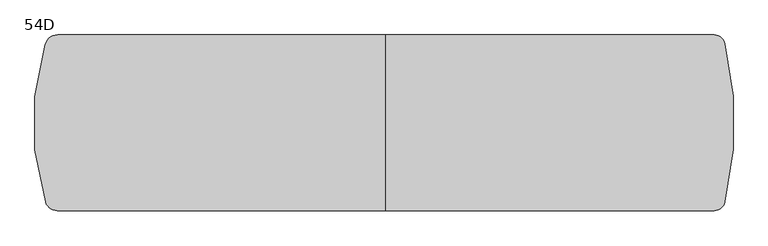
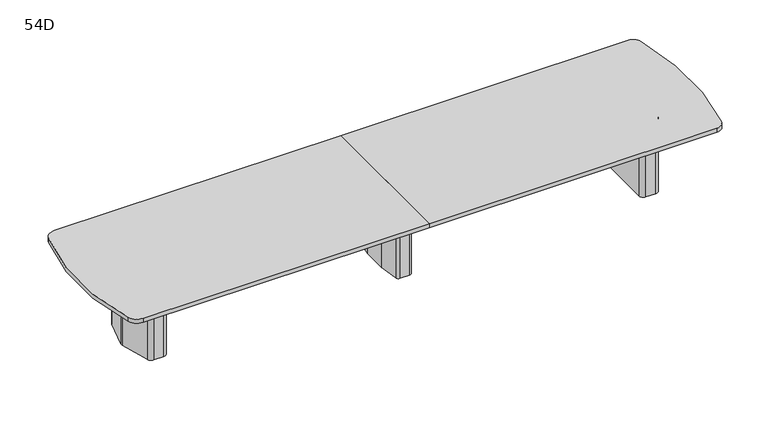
"""IFC4 building model written with IfcOpenShell, lengths in millimetres: furniture geometry, Coalesse_AM_Table_Conference_ETable2_SoftRadiused_18ft_ThreeBase : 54D."""

from ifc_helpers import new_model, si_unit, point, frame, frame_2d, origin, place, context, project, spatial, polyline, circle_curve, trimmed, segment, composite_curve, outline, extrude, source, transform, mapped, element, save
from ifc_brep_helpers import plane_surface, cylinder_surface, revolved_surface, advanced_brep


def furniture_54d_28616874(model_context):
    return source(origin(), model_context, "Body", "SolidModel", [
        advanced_brep(
        [(35.71875, 206.375, 3.175), (10.31875, 231.775, 3.175), (-10.31875, 231.775, 3.175), (-35.71875, 206.375, 3.175), (-35.71875, -206.375, 3.175), (-10.31875, -231.775, 3.175), (10.31875, -231.775, 3.175), (35.71875, -206.375, 3.175), (-61.11875, 206.375, 0.0), (-10.31875, 257.175, 0.0), (10.31875, 257.175, 0.0), (61.11875, 206.375, 0.0), (61.11875, -206.375, 0.0), (10.31875, -257.175, 0.0), (-10.31875, -257.175, 0.0), (-61.11875, -206.375, 0.0), (-61.11875, -206.375, 3.175), (-61.11875, 206.375, 3.175), (-10.31875, -257.175, 3.175), (10.31875, -257.175, 3.175), (61.11875, -206.375, 3.175), (61.11875, 206.375, 3.175), (10.31875, 257.175, 3.175), (-10.31875, 257.175, 3.175), (-92.6215974, 106.2976848, 698.5), (-92.86875, 102.7629613, 698.5), (-92.86875, -102.7629613, 698.5), (-92.6215974, -106.2976848, 698.5), (-67.7988375, -282.9347235, 698.5), (-42.6459902, -304.8, 698.5), (42.6459902, -304.8, 698.5), (67.7988375, -282.9347235, 698.5), (92.6215974, -106.2976848, 698.5), (92.86875, -102.7629613, 698.5), (92.86875, 102.7629613, 698.5), (92.6215974, 106.2976848, 698.5), (67.7988375, 282.9347235, 698.5), (42.6459902, 304.8, 698.5), (-42.6459902, 304.8, 698.5), (-67.7988375, 282.9347235, 698.5), (10.31875, 231.775, 698.5), (35.71875, 206.375, 698.5), (35.71875, -206.375, 698.5), (10.31875, -231.775, 698.5), (-10.31875, -231.775, 698.5), (-35.71875, -206.375, 698.5), (-35.71875, 206.375, 698.5), (-10.31875, 231.775, 698.5), (-92.6215974, 106.2976848, 3.175), (-67.7988375, 282.9347235, 3.175), (-42.6459902, 304.8, 3.175), (42.6459902, 304.8, 3.175), (67.7988375, 282.9347235, 3.175), (92.6215974, 106.2976848, 3.175), (92.86875, 102.7629613, 3.175), (92.86875, -102.7629613, 3.175), (92.6215974, -106.2976848, 3.175), (67.7988375, -282.9347235, 3.175), (42.6459902, -304.8, 3.175), (-42.6459902, -304.8, 3.175), (-67.7988375, -282.9347235, 3.175), (-92.6215974, -106.2976848, 3.175), (-92.86875, -102.7629613, 3.175), (-92.86875, 102.7629613, 3.175)],
        [
            (0, 1, circle_curve(frame((10.31875, 206.375, 3.175), z_axis=(0.0, 0.0, 1.0), x_axis=(1.0, 0.0, 0.0)), 25.4)),
            (1, 2),
            (2, 3, circle_curve(frame((-10.31875, 206.375, 3.175), z_axis=(0.0, 0.0, 1.0), x_axis=(1.0, 0.0, 0.0)), 25.4)),
            (3, 4),
            (4, 5, circle_curve(frame((-10.31875, -206.375, 3.175), z_axis=(0.0, 0.0, 1.0), x_axis=(1.0, 0.0, 0.0)), 25.4)),
            (5, 6),
            (6, 7, circle_curve(frame((10.31875, -206.375, 3.175), z_axis=(0.0, 0.0, 1.0), x_axis=(1.0, 0.0, 0.0)), 25.4)),
            (7, 0),
            (8, 9, circle_curve(frame((-10.31875, 206.375, 0.0), z_axis=(0.0, 0.0, -1.0), x_axis=(1.0, 0.0, 0.0)), 50.8)),
            (9, 10),
            (10, 11, circle_curve(frame((10.31875, 206.375, 0.0), z_axis=(0.0, 0.0, -1.0), x_axis=(1.0, 0.0, 0.0)), 50.8)),
            (11, 12),
            (12, 13, circle_curve(frame((10.31875, -206.375, 0.0), z_axis=(0.0, 0.0, -1.0), x_axis=(1.0, 0.0, 0.0)), 50.8)),
            (13, 14),
            (14, 15, circle_curve(frame((-10.31875, -206.375, 0.0), z_axis=(0.0, 0.0, -1.0), x_axis=(1.0, 0.0, 0.0)), 50.8)),
            (15, 8),
            (15, 16),
            (16, 17),
            (17, 8),
            (14, 18),
            (18, 16, circle_curve(frame((-10.31875, -206.375, 3.175), z_axis=(0.0, 0.0, -1.0), x_axis=(1.0, 0.0, 0.0)), 50.8)),
            (13, 19),
            (19, 18),
            (12, 20),
            (20, 19, circle_curve(frame((10.31875, -206.375, 3.175), z_axis=(0.0, 0.0, -1.0), x_axis=(1.0, 0.0, 0.0)), 50.8)),
            (11, 21),
            (21, 20),
            (10, 22),
            (22, 21, circle_curve(frame((10.31875, 206.375, 3.175), z_axis=(0.0, 0.0, -1.0), x_axis=(1.0, 0.0, 0.0)), 50.8)),
            (9, 23),
            (23, 22),
            (17, 23, circle_curve(frame((-10.31875, 206.375, 3.175), z_axis=(0.0, 0.0, -1.0), x_axis=(1.0, 0.0, 0.0)), 50.8)),
            (24, 25, circle_curve(frame((-67.46875, 102.7629613, 698.5), z_axis=(0.0, 0.0, 1.0), x_axis=(1.0, 0.0, 0.0)), 25.4)),
            (25, 26),
            (26, 27, circle_curve(frame((-67.46875, -102.7629613, 698.5), z_axis=(0.0, 0.0, 1.0), x_axis=(1.0, 0.0, 0.0)), 25.4)),
            (27, 28),
            (28, 29, circle_curve(frame((-42.6459902, -279.4, 698.5), z_axis=(0.0, 0.0, 1.0), x_axis=(1.0, 0.0, 0.0)), 25.4)),
            (29, 30),
            (30, 31, circle_curve(frame((42.6459902, -279.4, 698.5), z_axis=(0.0, 0.0, 1.0), x_axis=(1.0, 0.0, 0.0)), 25.4)),
            (31, 32),
            (32, 33, circle_curve(frame((67.46875, -102.7629613, 698.5), z_axis=(0.0, 0.0, 1.0), x_axis=(1.0, 0.0, 0.0)), 25.4)),
            (33, 34),
            (34, 35, circle_curve(frame((67.46875, 102.7629613, 698.5), z_axis=(0.0, 0.0, 1.0), x_axis=(1.0, 0.0, 0.0)), 25.4)),
            (35, 36),
            (36, 37, circle_curve(frame((42.6459902, 279.4, 698.5), z_axis=(0.0, 0.0, 1.0), x_axis=(1.0, 0.0, 0.0)), 25.4)),
            (37, 38),
            (38, 39, circle_curve(frame((-42.6459902, 279.4, 698.5), z_axis=(0.0, 0.0, 1.0), x_axis=(1.0, 0.0, 0.0)), 25.4)),
            (39, 24),
            (40, 41, circle_curve(frame((10.31875, 206.375, 698.5), z_axis=(0.0, 0.0, -1.0), x_axis=(1.0, 0.0, 0.0)), 25.4)),
            (41, 42),
            (42, 43, circle_curve(frame((10.31875, -206.375, 698.5), z_axis=(0.0, 0.0, -1.0), x_axis=(1.0, 0.0, 0.0)), 25.4)),
            (43, 44),
            (44, 45, circle_curve(frame((-10.31875, -206.375, 698.5), z_axis=(0.0, 0.0, -1.0), x_axis=(1.0, 0.0, 0.0)), 25.4)),
            (45, 46),
            (46, 47, circle_curve(frame((-10.31875, 206.375, 698.5), z_axis=(0.0, 0.0, -1.0), x_axis=(1.0, 0.0, 0.0)), 25.4)),
            (47, 40),
            (48, 49),
            (49, 50, circle_curve(frame((-42.6459902, 279.4, 3.175), z_axis=(0.0, 0.0, -1.0), x_axis=(1.0, 0.0, 0.0)), 25.4)),
            (50, 51),
            (51, 52, circle_curve(frame((42.6459902, 279.4, 3.175), z_axis=(0.0, 0.0, -1.0), x_axis=(1.0, 0.0, 0.0)), 25.4)),
            (52, 53),
            (53, 54, circle_curve(frame((67.46875, 102.7629613, 3.175), z_axis=(0.0, 0.0, -1.0), x_axis=(1.0, 0.0, 0.0)), 25.4)),
            (54, 55),
            (55, 56, circle_curve(frame((67.46875, -102.7629613, 3.175), z_axis=(0.0, 0.0, -1.0), x_axis=(1.0, 0.0, 0.0)), 25.4)),
            (56, 57),
            (57, 58, circle_curve(frame((42.6459902, -279.4, 3.175), z_axis=(0.0, 0.0, -1.0), x_axis=(1.0, 0.0, 0.0)), 25.4)),
            (58, 59),
            (59, 60, circle_curve(frame((-42.6459902, -279.4, 3.175), z_axis=(0.0, 0.0, -1.0), x_axis=(1.0, 0.0, 0.0)), 25.4)),
            (60, 61),
            (61, 62, circle_curve(frame((-67.46875, -102.7629613, 3.175), z_axis=(0.0, 0.0, -1.0), x_axis=(1.0, 0.0, 0.0)), 25.4)),
            (62, 63),
            (63, 48, circle_curve(frame((-67.46875, 102.7629613, 3.175), z_axis=(0.0, 0.0, -1.0), x_axis=(1.0, 0.0, 0.0)), 25.4)),
            (24, 48),
            (63, 25),
            (62, 26),
            (61, 27),
            (60, 28),
            (59, 29),
            (58, 30),
            (57, 31),
            (56, 32),
            (55, 33),
            (54, 34),
            (53, 35),
            (52, 36),
            (51, 37),
            (50, 38),
            (49, 39),
            (40, 1),
            (0, 41),
            (7, 42),
            (6, 43),
            (5, 44),
            (4, 45),
            (3, 46),
            (2, 47),
        ],
        [
            plane_surface(frame((-61.11875, -206.375, 3.175), z_axis=(0.0, 0.0, 1.0), x_axis=(0.0, -1.0, 0.0))),
            plane_surface(frame((-61.11875, -206.375, 0.0), z_axis=(0.0, 0.0, -1.0), x_axis=(0.0, 1.0, 0.0))),
            plane_surface(frame((-61.11875, 206.375, 3.175), z_axis=(-1.0, 0.0, 0.0), x_axis=(0.0, 0.0, -1.0))),
            cylinder_surface(frame((-10.31875, -206.375, 0.0), z_axis=(0.0, 0.0, 1.0), x_axis=(1.0, 0.0, 0.0)), 50.8),
            plane_surface(frame((-10.31875, -257.175, 3.175), z_axis=(0.0, -1.0, 0.0), x_axis=(0.0, 0.0, -1.0))),
            cylinder_surface(frame((10.31875, -206.375, 0.0), z_axis=(0.0, 0.0, 1.0), x_axis=(1.0, 0.0, 0.0)), 50.8),
            plane_surface(frame((61.11875, -206.375, 3.175), z_axis=(1.0, 0.0, 0.0), x_axis=(0.0, 0.0, -1.0))),
            cylinder_surface(frame((10.31875, 206.375, 0.0), z_axis=(0.0, 0.0, 1.0), x_axis=(1.0, 0.0, 0.0)), 50.8),
            plane_surface(frame((10.31875, 257.175, 3.175), z_axis=(0.0, 1.0, 0.0), x_axis=(0.0, 0.0, -1.0))),
            cylinder_surface(frame((-10.31875, 206.375, 0.0), z_axis=(0.0, 0.0, 1.0), x_axis=(1.0, 0.0, 0.0)), 50.8),
            plane_surface(frame((-42.06875, 102.7629613, 698.5), z_axis=(0.0, 0.0, 1.0), x_axis=(0.0, 1.0, 0.0))),
            plane_surface(frame((-42.06875, 102.7629613, 3.175), z_axis=(0.0, 0.0, -1.0), x_axis=(0.0, -1.0, 0.0))),
            cylinder_surface(frame((-67.46875, 102.7629613, 3.175), z_axis=(0.0, 0.0, 1.0), x_axis=(1.0, 0.0, 0.0)), 25.4),
            plane_surface(frame((-92.86875, 102.7629613, 698.5), z_axis=(-1.0, 0.0, 0.0), x_axis=(0.0, 0.0, -1.0))),
            cylinder_surface(frame((-67.46875, -102.7629613, 3.175), z_axis=(0.0, 0.0, 1.0), x_axis=(1.0, 0.0, 0.0)), 25.4),
            plane_surface(frame((-92.6215974, -106.2976848, 698.5), z_axis=(-0.9902695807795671, -0.13916234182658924, 0.0), x_axis=(0.0, 0.0, -1.0))),
            cylinder_surface(frame((-42.6459902, -279.4, 3.175), z_axis=(0.0, 0.0, 1.0), x_axis=(1.0, 0.0, 0.0)), 25.4),
            plane_surface(frame((-42.6459902, -304.8, 698.5), z_axis=(0.0, -1.0, 0.0), x_axis=(0.0, 0.0, -1.0))),
            cylinder_surface(frame((42.6459902, -279.4, 3.175), z_axis=(0.0, 0.0, 1.0), x_axis=(1.0, 0.0, 0.0)), 25.4),
            plane_surface(frame((67.7988375, -282.9347235, 698.5), z_axis=(0.9902695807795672, -0.13916234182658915, 0.0), x_axis=(0.0, 0.0, -1.0))),
            cylinder_surface(frame((67.46875, -102.7629613, 3.175), z_axis=(0.0, 0.0, 1.0), x_axis=(1.0, 0.0, 0.0)), 25.4),
            plane_surface(frame((92.86875, -102.7629613, 698.5), z_axis=(1.0, 0.0, 0.0), x_axis=(0.0, 0.0, -1.0))),
            cylinder_surface(frame((67.46875, 102.7629613, 3.175), z_axis=(0.0, 0.0, 1.0), x_axis=(1.0, 0.0, 0.0)), 25.4),
            plane_surface(frame((92.6215974, 106.2976848, 698.5), z_axis=(0.9902695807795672, 0.1391623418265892, 0.0), x_axis=(0.0, 0.0, -1.0))),
            cylinder_surface(frame((42.6459902, 279.4, 3.175), z_axis=(0.0, 0.0, 1.0), x_axis=(1.0, 0.0, 0.0)), 25.4),
            plane_surface(frame((42.6459902, 304.8, 698.5), z_axis=(0.0, 1.0, 0.0), x_axis=(0.0, 0.0, -1.0))),
            cylinder_surface(frame((-42.6459902, 279.4, 3.175), z_axis=(0.0, 0.0, 1.0), x_axis=(1.0, 0.0, 0.0)), 25.4),
            plane_surface(frame((-67.7988375, 282.9347235, 698.5), z_axis=(-0.9902695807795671, 0.13916234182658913, 0.0), x_axis=(0.0, 0.0, -1.0))),
            revolved_surface(polyline([(35.71875, 206.375, 3.175), (35.71875, 206.375, 698.5)]), (10.31875, 206.375, 0.0), (0.0, 0.0, -1.0)),
            plane_surface(frame((35.71875, 206.375, 698.5), z_axis=(-1.0, 0.0, 0.0), x_axis=(0.0, 0.0, -1.0))),
            revolved_surface(polyline([(35.71875, -206.375, 3.175), (35.71875, -206.375, 698.5)]), (10.31875, -206.375, 0.0), (0.0, 0.0, -1.0)),
            plane_surface(frame((10.31875, -231.775, 698.5), z_axis=(0.0, 1.0, 0.0), x_axis=(0.0, 0.0, -1.0))),
            revolved_surface(polyline([(15.081249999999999, -206.375, 3.175), (15.081249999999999, -206.375, 698.5)]), (-10.31875, -206.375, 0.0), (0.0, 0.0, -1.0)),
            plane_surface(frame((-35.71875, -206.375, 698.5), z_axis=(1.0, 0.0, 0.0), x_axis=(0.0, 0.0, -1.0))),
            revolved_surface(polyline([(15.081249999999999, 206.375, 3.175), (15.081249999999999, 206.375, 698.5)]), (-10.31875, 206.375, 0.0), (0.0, 0.0, -1.0)),
            plane_surface(frame((-10.31875, 231.775, 698.5), z_axis=(0.0, -1.0, 0.0), x_axis=(0.0, 0.0, -1.0))),
        ],
        [
            (0, [[1, 2, 3, 4, 5, 6, 7, 8]]),
            (1, [[9, 10, 11, 12, 13, 14, 15, 16]]),
            (2, [[-16, 17, 18, 19]]),
            (3, [[-15, 20, 21, -17]]),
            (4, [[-14, 22, 23, -20]]),
            (5, [[-13, 24, 25, -22]]),
            (6, [[-12, 26, 27, -24]]),
            (7, [[-11, 28, 29, -26]]),
            (8, [[-10, 30, 31, -28]]),
            (9, [[-9, -19, 32, -30]]),
            (10, [[33, 34, 35, 36, 37, 38, 39, 40, 41, 42, 43, 44, 45, 46, 47, 48], [49, 50, 51, 52, 53, 54, 55, 56]]),
            (11, [[57, 58, 59, 60, 61, 62, 63, 64, 65, 66, 67, 68, 69, 70, 71, 72], [-18, -21, -23, -25, -27, -29, -31, -32]]),
            (12, [[-33, 73, -72, 74]]),
            (13, [[-34, -74, -71, 75]]),
            (14, [[-35, -75, -70, 76]]),
            (15, [[-36, -76, -69, 77]]),
            (16, [[-37, -77, -68, 78]]),
            (17, [[-38, -78, -67, 79]]),
            (18, [[-39, -79, -66, 80]]),
            (19, [[-40, -80, -65, 81]]),
            (20, [[-41, -81, -64, 82]]),
            (21, [[-42, -82, -63, 83]]),
            (22, [[-43, -83, -62, 84]]),
            (23, [[-44, -84, -61, 85]]),
            (24, [[-45, -85, -60, 86]]),
            (25, [[-46, -86, -59, 87]]),
            (26, [[-47, -87, -58, 88]]),
            (27, [[-48, -88, -57, -73]]),
            (28, [[-49, 89, -1, 90]]),
            (29, [[-50, -90, -8, 91]]),
            (30, [[-51, -91, -7, 92]]),
            (31, [[-52, -92, -6, 93]]),
            (32, [[-53, -93, -5, 94]]),
            (33, [[-54, -94, -4, 95]]),
            (34, [[-55, -95, -3, 96]]),
            (35, [[-56, -96, -2, -89]]),
        ],
    ),
        advanced_brep(
        [(2284.624548, 274.2093613, 698.5), (2244.7579246, 304.8, 698.5), (2155.825, 304.8, 698.5), (2114.55, 263.525, 698.5), (2114.55, -263.525, 698.5), (2155.825, -304.8, 698.5), (2244.7579246, -304.8, 698.5), (2284.624548, -274.2093613, 698.5), (2355.2503901, -10.6333708, 698.5), (2355.2503901, 10.6333708, 698.5), (2152.65, -206.375, 698.5), (2152.65, 206.375, 698.5), (2178.05, 231.775, 698.5), (2237.0608422, 231.775, 698.5), (2261.595338, 212.9490792, 698.5), (2300.2875, 68.54974, 698.5), (2300.2875, -68.54974, 698.5), (2261.595338, -212.9490792, 698.5), (2237.0608422, -231.775, 698.5), (2178.05, -231.775, 698.5), (2284.624548, 274.2093613, 3.175), (2355.2503901, 10.6333708, 3.175), (2355.2503901, -10.6333708, 3.175), (2284.624548, -274.2093613, 3.175), (2244.7579246, -304.8, 3.175), (2155.825, -304.8, 3.175), (2114.55, -263.525, 3.175), (2114.55, 263.525, 3.175), (2155.825, 304.8, 3.175), (2244.7579246, 304.8, 3.175), (2273.8625859, 216.2361187, 3.175), (2237.0608422, 244.475, 3.175), (2178.05, 244.475, 3.175), (2139.95, 206.375, 3.175), (2139.95, -206.375, 3.175), (2178.05, -244.475, 3.175), (2237.0608422, -244.475, 3.175), (2273.8625859, -216.2361187, 3.175), (2312.9875, -70.2217466, 3.175), (2312.9875, 70.2217466, 3.175), (2178.05, -231.775, 3.175), (2152.65, -206.375, 3.175), (2237.0608422, -231.775, 3.175), (2261.595338, -212.9490792, 3.175), (2300.2875, -68.54974, 3.175), (2300.2875, 68.54974, 3.175), (2261.595338, 212.9490792, 3.175), (2237.0608422, 231.775, 3.175), (2178.05, 231.775, 3.175), (2152.65, 206.375, 3.175), (2273.8625859, 216.2361187, 0.0), (2312.9875, 70.2217466, 0.0), (2312.9875, -70.2217466, 0.0), (2273.8625859, -216.2361187, 0.0), (2237.0608422, -244.475, 0.0), (2178.05, -244.475, 0.0), (2139.95, -206.375, 0.0), (2139.95, 206.375, 0.0), (2178.05, 244.475, 0.0), (2237.0608422, 244.475, 0.0)],
        [
            (0, 1, circle_curve(frame((2244.7579246, 263.5270004, 698.5), z_axis=(0.0, 0.0, 1.0), x_axis=(-1.0, 0.0, 0.0)), 41.2729996)),
            (1, 2),
            (2, 3, circle_curve(frame((2155.825, 263.525, 698.5), z_axis=(0.0, 0.0, 1.0), x_axis=(-1.0, 0.0, 0.0)), 41.275)),
            (3, 4),
            (4, 5, circle_curve(frame((2155.825, -263.525, 698.5), z_axis=(0.0, 0.0, 1.0), x_axis=(-1.0, 0.0, 0.0)), 41.275)),
            (5, 6),
            (6, 7, circle_curve(frame((2244.7579246, -263.5270004, 698.5), z_axis=(0.0, 0.0, 1.0), x_axis=(-1.0, 0.0, 0.0)), 41.2729996)),
            (7, 8),
            (8, 9, circle_curve(frame((2315.5665979, 0.0, 698.5), z_axis=(0.0, 0.0, 1.0), x_axis=(-1.0, 0.0, 0.0)), 41.0837187)),
            (9, 0),
            (10, 11),
            (11, 12, circle_curve(frame((2178.05, 206.375, 698.5), z_axis=(0.0, 0.0, -1.0), x_axis=(-1.0, 0.0, 0.0)), 25.4)),
            (12, 13),
            (13, 14, circle_curve(frame((2237.0608422, 206.375, 698.5), z_axis=(0.0, 0.0, -1.0), x_axis=(-1.0, 0.0, 0.0)), 25.4)),
            (14, 15),
            (15, 16),
            (16, 17),
            (17, 18, circle_curve(frame((2237.0608422, -206.375, 698.5), z_axis=(0.0, 0.0, -1.0), x_axis=(-1.0, 0.0, 0.0)), 25.4)),
            (18, 19),
            (19, 10, circle_curve(frame((2178.05, -206.375, 698.5), z_axis=(0.0, 0.0, -1.0), x_axis=(-1.0, 0.0, 0.0)), 25.4)),
            (20, 21),
            (21, 22, circle_curve(frame((2315.5665979, 0.0, 3.175), z_axis=(0.0, 0.0, -1.0), x_axis=(-1.0, 0.0, 0.0)), 41.0837187)),
            (22, 23),
            (23, 24, circle_curve(frame((2244.7579246, -263.5270004, 3.175), z_axis=(0.0, 0.0, -1.0), x_axis=(-1.0, 0.0, 0.0)), 41.2729996)),
            (24, 25),
            (25, 26, circle_curve(frame((2155.825, -263.525, 3.175), z_axis=(0.0, 0.0, -1.0), x_axis=(-1.0, 0.0, 0.0)), 41.275)),
            (26, 27),
            (27, 28, circle_curve(frame((2155.825, 263.525, 3.175), z_axis=(0.0, 0.0, -1.0), x_axis=(-1.0, 0.0, 0.0)), 41.275)),
            (28, 29),
            (29, 20, circle_curve(frame((2244.7579246, 263.5270004, 3.175), z_axis=(0.0, 0.0, -1.0), x_axis=(-1.0, 0.0, 0.0)), 41.2729996)),
            (30, 31, circle_curve(frame((2237.0608422, 206.375, 3.175), z_axis=(0.0, 0.0, 1.0), x_axis=(-1.0, 0.0, 0.0)), 38.1)),
            (31, 32),
            (32, 33, circle_curve(frame((2178.05, 206.375, 3.175), z_axis=(0.0, 0.0, 1.0), x_axis=(-1.0, 0.0, 0.0)), 38.1)),
            (33, 34),
            (34, 35, circle_curve(frame((2178.05, -206.375, 3.175), z_axis=(0.0, 0.0, 1.0), x_axis=(-1.0, 0.0, 0.0)), 38.1)),
            (35, 36),
            (36, 37, circle_curve(frame((2237.0608422, -206.375, 3.175), z_axis=(0.0, 0.0, 1.0), x_axis=(-1.0, 0.0, 0.0)), 38.1)),
            (37, 38),
            (38, 39),
            (39, 30),
            (9, 21),
            (20, 0),
            (8, 22),
            (7, 23),
            (6, 24),
            (5, 25),
            (4, 26),
            (3, 27),
            (2, 28),
            (1, 29),
            (19, 40),
            (40, 41, circle_curve(frame((2178.05, -206.375, 3.175), z_axis=(0.0, 0.0, -1.0), x_axis=(-1.0, 0.0, 0.0)), 25.4)),
            (41, 10),
            (18, 42),
            (42, 40),
            (17, 43),
            (43, 42, circle_curve(frame((2237.0608422, -206.375, 3.175), z_axis=(0.0, 0.0, -1.0), x_axis=(-1.0, 0.0, 0.0)), 25.4)),
            (16, 44),
            (44, 43),
            (15, 45),
            (45, 44),
            (14, 46),
            (46, 45),
            (13, 47),
            (47, 46, circle_curve(frame((2237.0608422, 206.375, 3.175), z_axis=(0.0, 0.0, -1.0), x_axis=(-1.0, 0.0, 0.0)), 25.4)),
            (12, 48),
            (48, 47),
            (11, 49),
            (49, 48, circle_curve(frame((2178.05, 206.375, 3.175), z_axis=(0.0, 0.0, -1.0), x_axis=(-1.0, 0.0, 0.0)), 25.4)),
            (41, 49),
            (50, 51),
            (51, 52),
            (52, 53),
            (53, 54, circle_curve(frame((2237.0608422, -206.375, 0.0), z_axis=(0.0, 0.0, -1.0), x_axis=(-1.0, 0.0, 0.0)), 38.1)),
            (54, 55),
            (55, 56, circle_curve(frame((2178.05, -206.375, 0.0), z_axis=(0.0, 0.0, -1.0), x_axis=(-1.0, 0.0, 0.0)), 38.1)),
            (56, 57),
            (57, 58, circle_curve(frame((2178.05, 206.375, 0.0), z_axis=(0.0, 0.0, -1.0), x_axis=(-1.0, 0.0, 0.0)), 38.1)),
            (58, 59),
            (59, 50, circle_curve(frame((2237.0608422, 206.375, 0.0), z_axis=(0.0, 0.0, -1.0), x_axis=(-1.0, 0.0, 0.0)), 38.1)),
            (50, 30),
            (39, 51),
            (38, 52),
            (37, 53),
            (36, 54),
            (35, 55),
            (34, 56),
            (33, 57),
            (32, 58),
            (31, 59),
        ],
        [
            plane_surface(frame((2355.2374275, 10.6817473, 698.5), z_axis=(0.0, 0.0, 1.0000000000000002), x_axis=(0.25882201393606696, -0.9659250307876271, 0.0))),
            plane_surface(frame((2355.2374275, 10.6817473, 3.175), z_axis=(0.0, 0.0, -1.0000000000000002), x_axis=(-0.25882201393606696, 0.9659250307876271, 0.0))),
            plane_surface(frame((2284.624548, 274.2093613, 698.5), z_axis=(0.9659250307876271, 0.25882201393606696, 0.0), x_axis=(0.0, 0.0, -1.0))),
            cylinder_surface(frame((2315.5665979, 0.0, 3.175), z_axis=(0.0, 0.0, 1.0), x_axis=(-1.0, 0.0, 0.0)), 41.0837187),
            plane_surface(frame((2355.2503901, -10.6333708, 698.5), z_axis=(0.9659250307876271, -0.2588220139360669, 0.0), x_axis=(0.0, 0.0, -1.0))),
            cylinder_surface(frame((2244.7579246, -263.5270004, 3.175), z_axis=(0.0, 0.0, 1.0), x_axis=(-1.0, 0.0, 0.0)), 41.2729996),
            plane_surface(frame((2244.7579246, -304.8, 698.5), z_axis=(0.0, -1.0, 0.0), x_axis=(0.0, 0.0, -1.0))),
            cylinder_surface(frame((2155.825, -263.525, 3.175), z_axis=(0.0, 0.0, 1.0), x_axis=(-1.0, 0.0, 0.0)), 41.275),
            plane_surface(frame((2114.55, -263.525, 698.5), z_axis=(-1.0, 0.0, 0.0), x_axis=(0.0, 0.0, -1.0))),
            cylinder_surface(frame((2155.825, 263.525, 3.175), z_axis=(0.0, 0.0, 1.0), x_axis=(-1.0, 0.0, 0.0)), 41.275),
            plane_surface(frame((2155.825, 304.8, 698.5), z_axis=(0.0, 1.0, 0.0), x_axis=(0.0, 0.0, -1.0))),
            cylinder_surface(frame((2244.7579246, 263.5270004, 3.175), z_axis=(0.0, 0.0, 1.0), x_axis=(-1.0, 0.0, 0.0)), 41.2729996),
            revolved_surface(polyline([(2152.65, -206.375, 3.175), (2152.65, -206.375, 698.5)]), (2178.05, -206.375, 0.0), (0.0, 0.0, -1.0)),
            plane_surface(frame((2178.05, -231.775, 698.5), z_axis=(0.0, 1.0, 0.0), x_axis=(0.0, 0.0, -1.0))),
            revolved_surface(polyline([(2211.6608422, -206.375, 3.175), (2211.6608422, -206.375, 698.5)]), (2237.0608422, -206.375, 0.0), (0.0, 0.0, -1.0)),
            plane_surface(frame((2261.595338, -212.9490792, 698.5), z_axis=(-0.9659250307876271, 0.2588220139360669, 0.0), x_axis=(0.0, 0.0, -1.0))),
            plane_surface(frame((2300.2875, -68.54974, 698.5), z_axis=(-1.0, 0.0, 0.0), x_axis=(0.0, 0.0, -1.0))),
            plane_surface(frame((2300.2875, 68.54974, 698.5), z_axis=(-0.9659250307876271, -0.25882201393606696, 0.0), x_axis=(0.0, 0.0, -1.0))),
            revolved_surface(polyline([(2211.6608422, 206.375, 3.175), (2211.6608422, 206.375, 698.5)]), (2237.0608422, 206.375, 0.0), (0.0, 0.0, -1.0)),
            plane_surface(frame((2237.0608422, 231.775, 698.5), z_axis=(0.0, -1.0, 0.0), x_axis=(0.0, 0.0, -1.0))),
            revolved_surface(polyline([(2152.65, 206.375, 3.175), (2152.65, 206.375, 698.5)]), (2178.05, 206.375, 0.0), (0.0, 0.0, -1.0)),
            plane_surface(frame((2152.65, 206.375, 698.5), z_axis=(1.0, 0.0, 0.0), x_axis=(0.0, 0.0, -1.0))),
            plane_surface(frame((2312.5547479, 71.8367796, 3.175), z_axis=(0.0, 0.0, 1.0), x_axis=(0.25882201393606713, -0.965925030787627, 0.0))),
            plane_surface(frame((2312.5547479, 71.8367796, 0.0), z_axis=(0.0, 0.0, -1.0), x_axis=(-0.25882201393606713, 0.965925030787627, 0.0))),
            plane_surface(frame((2273.8625859, 216.2361187, 3.175), z_axis=(0.965925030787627, 0.25882201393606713, 0.0), x_axis=(0.0, 0.0, -1.0))),
            plane_surface(frame((2312.9875, 70.2217466, 3.175), z_axis=(1.0, 0.0, 0.0), x_axis=(0.0, 0.0, -1.0))),
            plane_surface(frame((2312.9875, -70.2217466, 3.175), z_axis=(0.9659250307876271, -0.2588220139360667, 0.0), x_axis=(0.0, 0.0, -1.0))),
            cylinder_surface(frame((2237.0608422, -206.375, 0.0), z_axis=(0.0, 0.0, 1.0), x_axis=(-1.0, 0.0, 0.0)), 38.1),
            plane_surface(frame((2237.0608422, -244.475, 3.175), z_axis=(0.0, -1.0, 0.0), x_axis=(0.0, 0.0, -1.0))),
            cylinder_surface(frame((2178.05, -206.375, 0.0), z_axis=(0.0, 0.0, 1.0), x_axis=(-1.0, 0.0, 0.0)), 38.1),
            plane_surface(frame((2139.95, -206.375, 3.175), z_axis=(-1.0, 0.0, 0.0), x_axis=(0.0, 0.0, -1.0))),
            cylinder_surface(frame((2178.05, 206.375, 0.0), z_axis=(0.0, 0.0, 1.0), x_axis=(-1.0, 0.0, 0.0)), 38.1),
            plane_surface(frame((2178.05, 244.475, 3.175), z_axis=(0.0, 1.0, 0.0), x_axis=(0.0, 0.0, -1.0))),
            cylinder_surface(frame((2237.0608422, 206.375, 0.0), z_axis=(0.0, 0.0, 1.0), x_axis=(-1.0, 0.0, 0.0)), 38.1),
        ],
        [
            (0, [[1, 2, 3, 4, 5, 6, 7, 8, 9, 10], [11, 12, 13, 14, 15, 16, 17, 18, 19, 20]]),
            (1, [[21, 22, 23, 24, 25, 26, 27, 28, 29, 30], [31, 32, 33, 34, 35, 36, 37, 38, 39, 40]]),
            (2, [[41, -21, 42, -10]]),
            (3, [[43, -22, -41, -9]]),
            (4, [[44, -23, -43, -8]]),
            (5, [[45, -24, -44, -7]]),
            (6, [[46, -25, -45, -6]]),
            (7, [[47, -26, -46, -5]]),
            (8, [[48, -27, -47, -4]]),
            (9, [[49, -28, -48, -3]]),
            (10, [[50, -29, -49, -2]]),
            (11, [[-42, -30, -50, -1]]),
            (12, [[51, 52, 53, -20]]),
            (13, [[54, 55, -51, -19]]),
            (14, [[56, 57, -54, -18]]),
            (15, [[58, 59, -56, -17]]),
            (16, [[60, 61, -58, -16]]),
            (17, [[62, 63, -60, -15]]),
            (18, [[64, 65, -62, -14]]),
            (19, [[66, 67, -64, -13]]),
            (20, [[68, 69, -66, -12]]),
            (21, [[-53, 70, -68, -11]]),
            (22, [[-55, -57, -59, -61, -63, -65, -67, -69, -70, -52]]),
            (23, [[71, 72, 73, 74, 75, 76, 77, 78, 79, 80]]),
            (24, [[81, -40, 82, -71]]),
            (25, [[-82, -39, 83, -72]]),
            (26, [[-83, -38, 84, -73]]),
            (27, [[-84, -37, 85, -74]]),
            (28, [[-85, -36, 86, -75]]),
            (29, [[-86, -35, 87, -76]]),
            (30, [[-87, -34, 88, -77]]),
            (31, [[-88, -33, 89, -78]]),
            (32, [[-89, -32, 90, -79]]),
            (33, [[-90, -31, -81, -80]]),
        ],
    ),
        advanced_brep(
        [(-2284.624548, 274.2093613, 698.5), (-2355.2503901, 10.6333708, 698.5), (-2355.2503901, -10.6333708, 698.5), (-2284.624548, -274.2093613, 698.5), (-2244.7579246, -304.8, 698.5), (-2155.825, -304.8, 698.5), (-2114.55, -263.525, 698.5), (-2114.55, 263.525, 698.5), (-2155.825, 304.8, 698.5), (-2244.7579246, 304.8, 698.5), (-2152.65, -206.375, 698.5), (-2178.05, -231.775, 698.5), (-2237.0608422, -231.775, 698.5), (-2261.595338, -212.9490792, 698.5), (-2300.2875, -68.54974, 698.5), (-2300.2875, 68.54974, 698.5), (-2261.595338, 212.9490792, 698.5), (-2237.0608422, 231.775, 698.5), (-2178.05, 231.775, 698.5), (-2152.65, 206.375, 698.5), (-2284.624548, 274.2093613, 3.175), (-2244.7579246, 304.8, 3.175), (-2155.825, 304.8, 3.175), (-2114.55, 263.525, 3.175), (-2114.55, -263.525, 3.175), (-2155.825, -304.8, 3.175), (-2244.7579246, -304.8, 3.175), (-2284.624548, -274.2093613, 3.175), (-2355.2503901, -10.6333708, 3.175), (-2355.2503901, 10.6333708, 3.175), (-2273.8625859, 216.2361187, 3.175), (-2312.9875, 70.2217466, 3.175), (-2312.9875, -70.2217466, 3.175), (-2273.8625859, -216.2361187, 3.175), (-2237.0608422, -244.475, 3.175), (-2178.05, -244.475, 3.175), (-2139.95, -206.375, 3.175), (-2139.95, 206.375, 3.175), (-2178.05, 244.475, 3.175), (-2237.0608422, 244.475, 3.175), (-2152.65, -206.375, 3.175), (-2178.05, -231.775, 3.175), (-2237.0608422, -231.775, 3.175), (-2261.595338, -212.9490792, 3.175), (-2300.2875, -68.54974, 3.175), (-2300.2875, 68.54974, 3.175), (-2261.595338, 212.9490792, 3.175), (-2237.0608422, 231.775, 3.175), (-2178.05, 231.775, 3.175), (-2152.65, 206.375, 3.175), (-2273.8625859, 216.2361187, 0.0), (-2237.0608422, 244.475, 0.0), (-2178.05, 244.475, 0.0), (-2139.95, 206.375, 0.0), (-2139.95, -206.375, 0.0), (-2178.05, -244.475, 0.0), (-2237.0608422, -244.475, 0.0), (-2273.8625859, -216.2361187, 0.0), (-2312.9875, -70.2217466, 0.0), (-2312.9875, 70.2217466, 0.0)],
        [
            (0, 1),
            (1, 2, circle_curve(frame((-2315.5665979, 0.0, 698.5), z_axis=(0.0, 0.0, 1.0), x_axis=(1.0, 0.0, 0.0)), 41.0837187)),
            (2, 3),
            (3, 4, circle_curve(frame((-2244.7579246, -263.5270004, 698.5), z_axis=(0.0, 0.0, 1.0), x_axis=(1.0, 0.0, 0.0)), 41.2729996)),
            (4, 5),
            (5, 6, circle_curve(frame((-2155.825, -263.525, 698.5), z_axis=(0.0, 0.0, 1.0), x_axis=(1.0, 0.0, 0.0)), 41.275)),
            (6, 7),
            (7, 8, circle_curve(frame((-2155.825, 263.525, 698.5), z_axis=(0.0, 0.0, 1.0), x_axis=(1.0, 0.0, 0.0)), 41.275)),
            (8, 9),
            (9, 0, circle_curve(frame((-2244.7579246, 263.5270004, 698.5), z_axis=(0.0, 0.0, 1.0), x_axis=(1.0, 0.0, 0.0)), 41.2729996)),
            (10, 11, circle_curve(frame((-2178.05, -206.375, 698.5), z_axis=(0.0, 0.0, -1.0), x_axis=(1.0, 0.0, 0.0)), 25.4)),
            (11, 12),
            (12, 13, circle_curve(frame((-2237.0608422, -206.375, 698.5), z_axis=(0.0, 0.0, -1.0), x_axis=(1.0, 0.0, 0.0)), 25.4)),
            (13, 14),
            (14, 15),
            (15, 16),
            (16, 17, circle_curve(frame((-2237.0608422, 206.375, 698.5), z_axis=(0.0, 0.0, -1.0), x_axis=(1.0, 0.0, 0.0)), 25.4)),
            (17, 18),
            (18, 19, circle_curve(frame((-2178.05, 206.375, 698.5), z_axis=(0.0, 0.0, -1.0), x_axis=(1.0, 0.0, 0.0)), 25.4)),
            (19, 10),
            (20, 21, circle_curve(frame((-2244.7579246, 263.5270004, 3.175), z_axis=(0.0, 0.0, -1.0), x_axis=(1.0, 0.0, 0.0)), 41.2729996)),
            (21, 22),
            (22, 23, circle_curve(frame((-2155.825, 263.525, 3.175), z_axis=(0.0, 0.0, -1.0), x_axis=(1.0, 0.0, 0.0)), 41.275)),
            (23, 24),
            (24, 25, circle_curve(frame((-2155.825, -263.525, 3.175), z_axis=(0.0, 0.0, -1.0), x_axis=(1.0, 0.0, 0.0)), 41.275)),
            (25, 26),
            (26, 27, circle_curve(frame((-2244.7579246, -263.5270004, 3.175), z_axis=(0.0, 0.0, -1.0), x_axis=(1.0, 0.0, 0.0)), 41.2729996)),
            (27, 28),
            (28, 29, circle_curve(frame((-2315.5665979, 0.0, 3.175), z_axis=(0.0, 0.0, -1.0), x_axis=(1.0, 0.0, 0.0)), 41.0837187)),
            (29, 20),
            (30, 31),
            (31, 32),
            (32, 33),
            (33, 34, circle_curve(frame((-2237.0608422, -206.375, 3.175), z_axis=(0.0, 0.0, 1.0), x_axis=(1.0, 0.0, 0.0)), 38.1)),
            (34, 35),
            (35, 36, circle_curve(frame((-2178.05, -206.375, 3.175), z_axis=(0.0, 0.0, 1.0), x_axis=(1.0, 0.0, 0.0)), 38.1)),
            (36, 37),
            (37, 38, circle_curve(frame((-2178.05, 206.375, 3.175), z_axis=(0.0, 0.0, 1.0), x_axis=(1.0, 0.0, 0.0)), 38.1)),
            (38, 39),
            (39, 30, circle_curve(frame((-2237.0608422, 206.375, 3.175), z_axis=(0.0, 0.0, 1.0), x_axis=(1.0, 0.0, 0.0)), 38.1)),
            (0, 20),
            (29, 1),
            (28, 2),
            (27, 3),
            (26, 4),
            (25, 5),
            (24, 6),
            (23, 7),
            (22, 8),
            (21, 9),
            (10, 40),
            (40, 41, circle_curve(frame((-2178.05, -206.375, 3.175), z_axis=(0.0, 0.0, -1.0), x_axis=(1.0, 0.0, 0.0)), 25.4)),
            (41, 11),
            (41, 42),
            (42, 12),
            (42, 43, circle_curve(frame((-2237.0608422, -206.375, 3.175), z_axis=(0.0, 0.0, -1.0), x_axis=(1.0, 0.0, 0.0)), 25.4)),
            (43, 13),
            (43, 44),
            (44, 14),
            (44, 45),
            (45, 15),
            (45, 46),
            (46, 16),
            (46, 47, circle_curve(frame((-2237.0608422, 206.375, 3.175), z_axis=(0.0, 0.0, -1.0), x_axis=(1.0, 0.0, 0.0)), 25.4)),
            (47, 17),
            (47, 48),
            (48, 18),
            (48, 49, circle_curve(frame((-2178.05, 206.375, 3.175), z_axis=(0.0, 0.0, -1.0), x_axis=(1.0, 0.0, 0.0)), 25.4)),
            (49, 19),
            (49, 40),
            (50, 51, circle_curve(frame((-2237.0608422, 206.375, 0.0), z_axis=(0.0, 0.0, -1.0), x_axis=(1.0, 0.0, 0.0)), 38.1)),
            (51, 52),
            (52, 53, circle_curve(frame((-2178.05, 206.375, 0.0), z_axis=(0.0, 0.0, -1.0), x_axis=(1.0, 0.0, 0.0)), 38.1)),
            (53, 54),
            (54, 55, circle_curve(frame((-2178.05, -206.375, 0.0), z_axis=(0.0, 0.0, -1.0), x_axis=(1.0, 0.0, 0.0)), 38.1)),
            (55, 56),
            (56, 57, circle_curve(frame((-2237.0608422, -206.375, 0.0), z_axis=(0.0, 0.0, -1.0), x_axis=(1.0, 0.0, 0.0)), 38.1)),
            (57, 58),
            (58, 59),
            (59, 50),
            (59, 31),
            (30, 50),
            (58, 32),
            (57, 33),
            (56, 34),
            (55, 35),
            (54, 36),
            (53, 37),
            (52, 38),
            (51, 39),
        ],
        [
            plane_surface(frame((-2355.2374275, 10.6817473, 698.5), z_axis=(0.0, 0.0, 1.0000000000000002), x_axis=(-0.25882201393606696, -0.9659250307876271, 0.0))),
            plane_surface(frame((-2355.2374275, 10.6817473, 3.175), z_axis=(0.0, 0.0, -1.0000000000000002), x_axis=(0.25882201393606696, 0.9659250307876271, 0.0))),
            plane_surface(frame((-2284.624548, 274.2093613, 698.5), z_axis=(-0.9659250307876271, 0.25882201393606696, 0.0), x_axis=(0.0, 0.0, -1.0))),
            cylinder_surface(frame((-2315.5665979, 0.0, 3.175), z_axis=(0.0, 0.0, 1.0), x_axis=(1.0, 0.0, 0.0)), 41.0837187),
            plane_surface(frame((-2355.2503901, -10.6333708, 698.5), z_axis=(-0.9659250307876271, -0.2588220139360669, 0.0), x_axis=(0.0, 0.0, -1.0))),
            cylinder_surface(frame((-2244.7579246, -263.5270004, 3.175), z_axis=(0.0, 0.0, 1.0), x_axis=(1.0, 0.0, 0.0)), 41.2729996),
            plane_surface(frame((-2244.7579246, -304.8, 698.5), z_axis=(0.0, -1.0, 0.0), x_axis=(0.0, 0.0, -1.0))),
            cylinder_surface(frame((-2155.825, -263.525, 3.175), z_axis=(0.0, 0.0, 1.0), x_axis=(1.0, 0.0, 0.0)), 41.275),
            plane_surface(frame((-2114.55, -263.525, 698.5), z_axis=(1.0, 0.0, 0.0), x_axis=(0.0, 0.0, -1.0))),
            cylinder_surface(frame((-2155.825, 263.525, 3.175), z_axis=(0.0, 0.0, 1.0), x_axis=(1.0, 0.0, 0.0)), 41.275),
            plane_surface(frame((-2155.825, 304.8, 698.5), z_axis=(0.0, 1.0, 0.0), x_axis=(0.0, 0.0, -1.0))),
            cylinder_surface(frame((-2244.7579246, 263.5270004, 3.175), z_axis=(0.0, 0.0, 1.0), x_axis=(1.0, 0.0, 0.0)), 41.2729996),
            revolved_surface(polyline([(-2152.65, -206.375, 3.175), (-2152.65, -206.375, 698.5)]), (-2178.05, -206.375, 0.0), (0.0, 0.0, -1.0)),
            plane_surface(frame((-2178.05, -231.775, 698.5), z_axis=(0.0, 1.0, 0.0), x_axis=(0.0, 0.0, -1.0))),
            revolved_surface(polyline([(-2211.6608422, -206.375, 3.175), (-2211.6608422, -206.375, 698.5)]), (-2237.0608422, -206.375, 0.0), (0.0, 0.0, -1.0)),
            plane_surface(frame((-2261.595338, -212.9490792, 698.5), z_axis=(0.9659250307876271, 0.2588220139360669, 0.0), x_axis=(0.0, 0.0, -1.0))),
            plane_surface(frame((-2300.2875, -68.54974, 698.5), z_axis=(1.0, 0.0, 0.0), x_axis=(0.0, 0.0, -1.0))),
            plane_surface(frame((-2300.2875, 68.54974, 698.5), z_axis=(0.9659250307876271, -0.25882201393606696, 0.0), x_axis=(0.0, 0.0, -1.0))),
            revolved_surface(polyline([(-2211.6608422, 206.375, 3.175), (-2211.6608422, 206.375, 698.5)]), (-2237.0608422, 206.375, 0.0), (0.0, 0.0, -1.0)),
            plane_surface(frame((-2237.0608422, 231.775, 698.5), z_axis=(0.0, -1.0, 0.0), x_axis=(0.0, 0.0, -1.0))),
            revolved_surface(polyline([(-2152.65, 206.375, 3.175), (-2152.65, 206.375, 698.5)]), (-2178.05, 206.375, 0.0), (0.0, 0.0, -1.0)),
            plane_surface(frame((-2152.65, 206.375, 698.5), z_axis=(-1.0, 0.0, 0.0), x_axis=(0.0, 0.0, -1.0))),
            plane_surface(frame((-2312.5547479, 71.8367796, 3.175), z_axis=(0.0, 0.0, 1.0), x_axis=(-0.25882201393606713, -0.965925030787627, 0.0))),
            plane_surface(frame((-2312.5547479, 71.8367796, 0.0), z_axis=(0.0, 0.0, -1.0), x_axis=(0.25882201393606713, 0.965925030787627, 0.0))),
            plane_surface(frame((-2273.8625859, 216.2361187, 3.175), z_axis=(-0.965925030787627, 0.25882201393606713, 0.0), x_axis=(0.0, 0.0, -1.0))),
            plane_surface(frame((-2312.9875, 70.2217466, 3.175), z_axis=(-1.0, 0.0, 0.0), x_axis=(0.0, 0.0, -1.0))),
            plane_surface(frame((-2312.9875, -70.2217466, 3.175), z_axis=(-0.9659250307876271, -0.2588220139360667, 0.0), x_axis=(0.0, 0.0, -1.0))),
            cylinder_surface(frame((-2237.0608422, -206.375, 0.0), z_axis=(0.0, 0.0, 1.0), x_axis=(1.0, 0.0, 0.0)), 38.1),
            plane_surface(frame((-2237.0608422, -244.475, 3.175), z_axis=(0.0, -1.0, 0.0), x_axis=(0.0, 0.0, -1.0))),
            cylinder_surface(frame((-2178.05, -206.375, 0.0), z_axis=(0.0, 0.0, 1.0), x_axis=(1.0, 0.0, 0.0)), 38.1),
            plane_surface(frame((-2139.95, -206.375, 3.175), z_axis=(1.0, 0.0, 0.0), x_axis=(0.0, 0.0, -1.0))),
            cylinder_surface(frame((-2178.05, 206.375, 0.0), z_axis=(0.0, 0.0, 1.0), x_axis=(1.0, 0.0, 0.0)), 38.1),
            plane_surface(frame((-2178.05, 244.475, 3.175), z_axis=(0.0, 1.0, 0.0), x_axis=(0.0, 0.0, -1.0))),
            cylinder_surface(frame((-2237.0608422, 206.375, 0.0), z_axis=(0.0, 0.0, 1.0), x_axis=(1.0, 0.0, 0.0)), 38.1),
        ],
        [
            (0, [[1, 2, 3, 4, 5, 6, 7, 8, 9, 10], [11, 12, 13, 14, 15, 16, 17, 18, 19, 20]]),
            (1, [[21, 22, 23, 24, 25, 26, 27, 28, 29, 30], [31, 32, 33, 34, 35, 36, 37, 38, 39, 40]]),
            (2, [[-1, 41, -30, 42]]),
            (3, [[-2, -42, -29, 43]]),
            (4, [[-3, -43, -28, 44]]),
            (5, [[-4, -44, -27, 45]]),
            (6, [[-5, -45, -26, 46]]),
            (7, [[-6, -46, -25, 47]]),
            (8, [[-7, -47, -24, 48]]),
            (9, [[-8, -48, -23, 49]]),
            (10, [[-9, -49, -22, 50]]),
            (11, [[-10, -50, -21, -41]]),
            (12, [[-11, 51, 52, 53]]),
            (13, [[-12, -53, 54, 55]]),
            (14, [[-13, -55, 56, 57]]),
            (15, [[-14, -57, 58, 59]]),
            (16, [[-15, -59, 60, 61]]),
            (17, [[-16, -61, 62, 63]]),
            (18, [[-17, -63, 64, 65]]),
            (19, [[-18, -65, 66, 67]]),
            (20, [[-19, -67, 68, 69]]),
            (21, [[-20, -69, 70, -51]]),
            (22, [[-52, -70, -68, -66, -64, -62, -60, -58, -56, -54]]),
            (23, [[71, 72, 73, 74, 75, 76, 77, 78, 79, 80]]),
            (24, [[-80, 81, -31, 82]]),
            (25, [[-79, 83, -32, -81]]),
            (26, [[-78, 84, -33, -83]]),
            (27, [[-77, 85, -34, -84]]),
            (28, [[-76, 86, -35, -85]]),
            (29, [[-75, 87, -36, -86]]),
            (30, [[-74, 88, -37, -87]]),
            (31, [[-73, 89, -38, -88]]),
            (32, [[-72, 90, -39, -89]]),
            (33, [[-71, -82, -40, -90]]),
        ],
    ),
        extrude(outline(composite_curve([segment(polyline([(0.0, 685.8), (0.0, -685.8), (-2558.8765873, -685.8)]), True, "CONTINUOUS"), segment(trimmed(circle_curve(frame_2d((-2558.8765873, -590.8588067)), 94.9411933), [point((-2558.8765873, -685.8))], [point((-2649.7932067, -618.2083682))], False, "CARTESIAN"), True, "CONTINUOUS"), segment(trimmed(circle_curve(frame_2d((-650.705431, 0.0)), 2092.494569), [point((-2649.7932067, -618.2083682))], [point((-2651.7651362, 611.7953722))], False, "CARTESIAN"), True, "CONTINUOUS"), segment(trimmed(circle_curve(frame_2d((-2556.0259546, 586.8691881)), 98.9308119), [point((-2651.7651362, 611.7953722))], [point((-2556.0259546, 685.8))], False, "CARTESIAN"), True, "CONTINUOUS"), segment(polyline([(-2556.0259546, 685.8), (0.0, 685.8)]), True, "CONTINUOUS")], self_intersect=False)), frame((0.0, 0.0, 698.5), z_axis=(0.0, 0.0, 1.0), x_axis=(1.0, 0.0, 0.0)), (0.0, 0.0, 1.0), 38.1),
        extrude(outline(composite_curve([segment(trimmed(circle_curve(frame_2d((115.2979315, 0.0)), 2608.8020021), [point((2649.7932067, 618.2083682))], [point((2649.7932067, -618.2083682))], False, "CARTESIAN"), True, "CONTINUOUS"), segment(trimmed(circle_curve(frame_2d((2568.9605731, -603.6704298)), 82.1295702), [point((2649.7932067, -618.2083682))], [point((2568.9605731, -685.8))], False, "CARTESIAN"), True, "CONTINUOUS"), segment(polyline([(2568.9605731, -685.8), (0.0, -685.8), (0.0, 685.8), (2568.9605731, 685.8)]), True, "CONTINUOUS"), segment(trimmed(circle_curve(frame_2d((2568.9605731, 603.6704298)), 82.1295702), [point((2568.9605731, 685.8))], [point((2649.7932067, 618.2083682))], False, "CARTESIAN"), True, "CONTINUOUS")], self_intersect=False)), frame((0.0, 0.0, 698.5), z_axis=(0.0, 0.0, 1.0), x_axis=(1.0, 0.0, 0.0)), (0.0, 0.0, 1.0), 38.1),
        extrude(outline(polyline([(96.8375, 698.5), (103.1875, 698.5), (103.1875, 476.25), (-103.1875, 476.25), (-103.1875, 698.5), (-96.8375, 698.5), (-96.8375, 482.6), (96.8375, 482.6), (96.8375, 698.5)])), frame((-2114.55, 0.0, 0.0), z_axis=(1.0, 0.0, 0.0), x_axis=(0.0, 1.0, 0.0)), (0.0, 0.0, 1.0), 4229.1),
    ])


if __name__ == "__main__":
    model = new_model("IFC4")
    model_context = context("Model", 3, world=origin())
    ifc_project = project(units=[si_unit("LENGTHUNIT", "METRE", prefix="MILLI")], contexts=[model_context])
    site = spatial("IfcSite", under=ifc_project)
    building = spatial("IfcBuilding", under=site)
    placement = place(None, origin())
    furniture_54d_shape = furniture_54d_28616874(model_context)
    element("IfcFurniture", 1, ObjectType="Coalesse_AM_Table_Conference_ETable2_SoftRadiused_18ft_ThreeBase : 54D", at=placement, inside=building, context=model_context, shape_type="MappedRepresentation", body=[
        mapped(furniture_54d_shape, transform((0.0, 0.0, 0.0), x_axis=(1.0, 0.0, 0.0), y_axis=(0.0, 1.0, 0.0), z_axis=(0.0, 0.0, 1.0))),
    ])
    save(model, "model.ifc")
